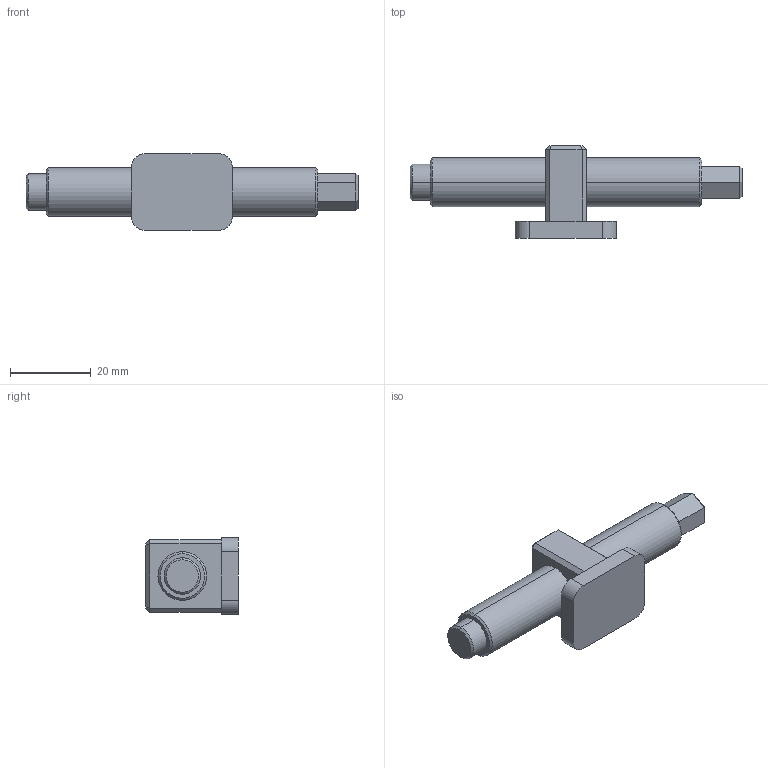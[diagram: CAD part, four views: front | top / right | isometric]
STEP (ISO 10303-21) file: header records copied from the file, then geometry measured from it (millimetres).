
FILE_DESCRIPTION (( 'STEP AP214' ), '1' );
FILE_NAME ('4846082.STEP', '2025-03-20T12:05:48', ( '' ), ( '' ), 'SwSTEP 2.0', 'SolidWorks 2021', '' );
FILE_SCHEMA (( 'AUTOMOTIVE_DESIGN' ));
Length unit declared in the file: millimetre
Products named in the file (1): 4846082
Bounding box: 82 x 22.8 x 19 mm (x, y, z)
Volume: 12398.5 mm3; surface area: 4900.9 mm2
Topology: 1 solids, 1 shells, 68 faces, 154 edges, 94 vertices
Faces by surface type: plane 52, cylinder 10, cone 6
Entity records: 2341 total; most frequent: DIRECTION 318, CARTESIAN_POINT 317, ORIENTED_EDGE 308, EDGE_CURVE 154, VECTOR 128, LINE 128, AXIS2_PLACEMENT_3D 95, VERTEX_POINT 94
